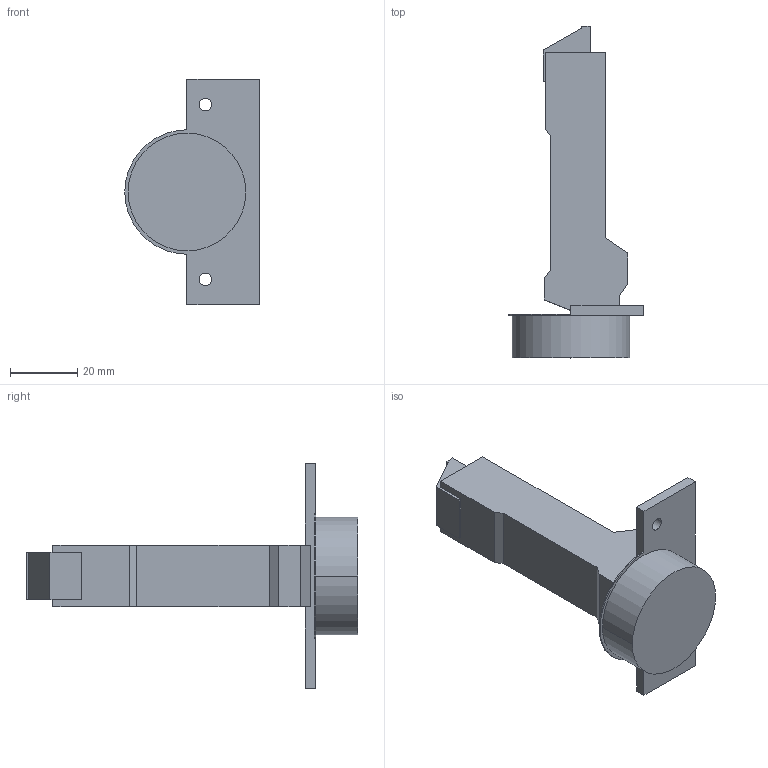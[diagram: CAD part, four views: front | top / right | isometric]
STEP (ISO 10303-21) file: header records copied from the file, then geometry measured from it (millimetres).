
FILE_DESCRIPTION (( 'STEP AP214' ), '1' );
FILE_NAME ('Scharnier T Click-on 95° H_BB, K95.step', '2018-10-02T12:12:00', ( '' ), ( '' ), 'SwSTEP 2.0', 'SolidWorks 2017', '' );
FILE_SCHEMA (( 'AUTOMOTIVE_DESIGN' ));
Length unit declared in the file: millimetre
Products named in the file (1): Scharnier T Click-on 95° H_BB, K95
Bounding box: 40 x 98.7 x 67 mm (x, y, z)
Volume: 42768.8 mm3; surface area: 12085.5 mm2
Topology: 1 solids, 1 shells, 48 faces, 126 edges, 84 vertices
Faces by surface type: plane 35, cylinder 13
Entity records: 1518 total; most frequent: CARTESIAN_POINT 259, ORIENTED_EDGE 252, DIRECTION 250, EDGE_CURVE 126, VECTOR 100, LINE 100, VERTEX_POINT 84, AXIS2_PLACEMENT_3D 75
